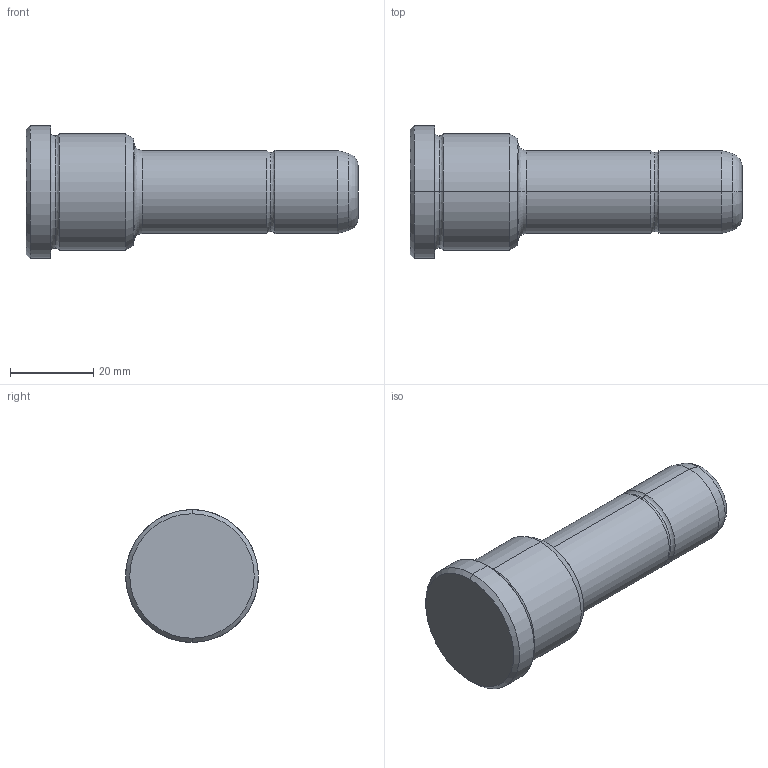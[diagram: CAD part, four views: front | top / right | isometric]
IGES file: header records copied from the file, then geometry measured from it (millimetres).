
Start section: START RECORD GO HERE.
Global section: file name: 351-20X26X80.igs; native system: DASSAULT SYSTEMES CATIA V5 R20 - www.3ds.com; preprocessor: CATIA Version 5 Release 20 ; author: Utente; organization: NB04-ASUS; date: 20210827.143254; units: millimetre
Bounding box: 80 x 32 x 32 mm (x, y, z)
Surface area: 7082.8 mm2 (no closed solid volume)
Topology: 0 solids, 0 shells, 30 faces, 172 edges, 172 vertices
Faces by surface type: revolution 26, plane 4
